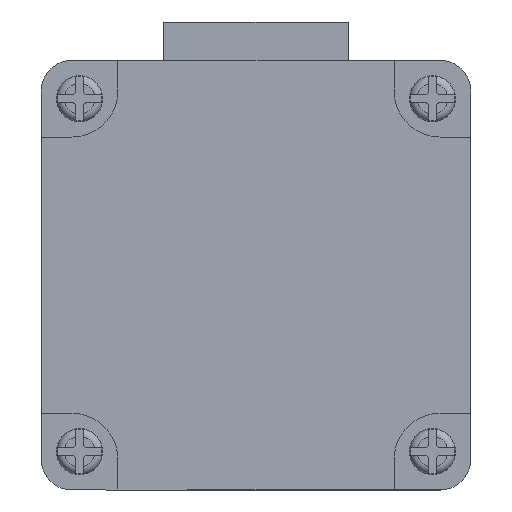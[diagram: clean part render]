
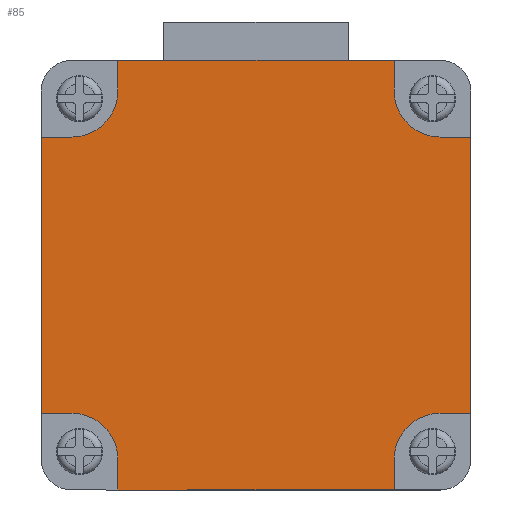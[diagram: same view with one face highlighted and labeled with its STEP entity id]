
A CAD part, front view. The second image highlights one B-rep face of the part: STEP entity #85.
In plain terms, the highlighted planar face has unit normal (0, -1, 0).
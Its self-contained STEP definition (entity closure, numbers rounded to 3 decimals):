
#19 = EDGE_CURVE ( 'NONE', #607, #1506, #1913, .T. ) ;
#23 = DIRECTION ( 'NONE',  ( -1., 0., 0. ) ) ;
#74 = DIRECTION ( 'NONE',  ( 0., 0., -1. ) ) ;
#84 = ORIENTED_EDGE ( 'NONE', *, *, #1749, .F. ) ;
#85 = ADVANCED_FACE ( 'NONE', ( #296 ), #1320, .T. ) ;
#93 = CARTESIAN_POINT ( 'NONE',  ( -12., 0., -12. ) ) ;
#107 = CARTESIAN_POINT ( 'NONE',  ( -9., 0., -14. ) ) ;
#116 = VERTEX_POINT ( 'NONE', #2346 ) ;
#156 = ORIENTED_EDGE ( 'NONE', *, *, #19, .F. ) ;
#158 = EDGE_CURVE ( 'NONE', #1972, #512, #1006, .T. ) ;
#160 = AXIS2_PLACEMENT_3D ( 'NONE', #540, #1135, #1922 ) ;
#195 = CARTESIAN_POINT ( 'NONE',  ( -14., 0., -9. ) ) ;
#196 = VERTEX_POINT ( 'NONE', #2204 ) ;
#239 = CARTESIAN_POINT ( 'NONE',  ( 12., 0., -9. ) ) ;
#240 = VERTEX_POINT ( 'NONE', #625 ) ;
#264 = LINE ( 'NONE', #2277, #1975 ) ;
#296 = FACE_OUTER_BOUND ( 'NONE', #2486, .T. ) ;
#298 = EDGE_CURVE ( 'NONE', #1526, #196, #1031, .T. ) ;
#337 = VECTOR ( 'NONE', #1421, 1000. ) ;
#349 = DIRECTION ( 'NONE',  ( 0., 0., -1. ) ) ;
#361 = EDGE_CURVE ( 'NONE', #1506, #1699, #1067, .T. ) ;
#416 = CARTESIAN_POINT ( 'NONE',  ( -9., 0., 14. ) ) ;
#490 = DIRECTION ( 'NONE',  ( 1., 0., 0. ) ) ;
#495 = DIRECTION ( 'NONE',  ( 0., 0., 1. ) ) ;
#508 = CIRCLE ( 'NONE', #1958, 3. ) ;
#512 = VERTEX_POINT ( 'NONE', #787 ) ;
#521 = CARTESIAN_POINT ( 'NONE',  ( 9., 0., -14. ) ) ;
#540 = CARTESIAN_POINT ( 'NONE',  ( 12., 0., -12. ) ) ;
#556 = CARTESIAN_POINT ( 'NONE',  ( 12., 0., 9. ) ) ;
#583 = ORIENTED_EDGE ( 'NONE', *, *, #2483, .F. ) ;
#590 = CARTESIAN_POINT ( 'NONE',  ( -14., 0., 9. ) ) ;
#607 = VERTEX_POINT ( 'NONE', #1841 ) ;
#625 = CARTESIAN_POINT ( 'NONE',  ( 9., 0., -12. ) ) ;
#636 = EDGE_CURVE ( 'NONE', #1699, #2069, #508, .T. ) ;
#689 = CARTESIAN_POINT ( 'NONE',  ( -12., 0., 12. ) ) ;
#694 = VECTOR ( 'NONE', #23, 1000. ) ;
#707 = ORIENTED_EDGE ( 'NONE', *, *, #1089, .F. ) ;
#748 = EDGE_CURVE ( 'NONE', #116, #1972, #2134, .T. ) ;
#781 = AXIS2_PLACEMENT_3D ( 'NONE', #1885, #2128, #349 ) ;
#787 = CARTESIAN_POINT ( 'NONE',  ( -9., 0., 14. ) ) ;
#873 = CARTESIAN_POINT ( 'NONE',  ( 14., 0., 12. ) ) ;
#925 = LINE ( 'NONE', #1878, #2438 ) ;
#945 = ORIENTED_EDGE ( 'NONE', *, *, #1254, .F. ) ;
#951 = VERTEX_POINT ( 'NONE', #2142 ) ;
#1006 = LINE ( 'NONE', #416, #2425 ) ;
#1007 = CARTESIAN_POINT ( 'NONE',  ( 12., 0., -9. ) ) ;
#1009 = AXIS2_PLACEMENT_3D ( 'NONE', #689, #2283, #495 ) ;
#1018 = DIRECTION ( 'NONE',  ( -1., 0., 0. ) ) ;
#1020 = ORIENTED_EDGE ( 'NONE', *, *, #298, .F. ) ;
#1031 = LINE ( 'NONE', #1635, #1503 ) ;
#1038 = EDGE_CURVE ( 'NONE', #2088, #116, #925, .T. ) ;
#1047 = DIRECTION ( 'NONE',  ( 0., 0., 1. ) ) ;
#1067 = LINE ( 'NONE', #1856, #337 ) ;
#1089 = EDGE_CURVE ( 'NONE', #240, #607, #2075, .T. ) ;
#1121 = ORIENTED_EDGE ( 'NONE', *, *, #2539, .F. ) ;
#1135 = DIRECTION ( 'NONE',  ( 0., -1., 0. ) ) ;
#1200 = VERTEX_POINT ( 'NONE', #239 ) ;
#1215 = LINE ( 'NONE', #1007, #694 ) ;
#1230 = ORIENTED_EDGE ( 'NONE', *, *, #748, .F. ) ;
#1246 = VECTOR ( 'NONE', #1654, 1000. ) ;
#1254 = EDGE_CURVE ( 'NONE', #1632, #951, #2029, .T. ) ;
#1259 = EDGE_CURVE ( 'NONE', #512, #1632, #264, .T. ) ;
#1320 = PLANE ( 'NONE',  #781 ) ;
#1401 = EDGE_CURVE ( 'NONE', #196, #2427, #2472, .T. ) ;
#1421 = DIRECTION ( 'NONE',  ( 0., 0., 1. ) ) ;
#1445 = VECTOR ( 'NONE', #2512, 1000. ) ;
#1503 = VECTOR ( 'NONE', #1839, 1000. ) ;
#1506 = VERTEX_POINT ( 'NONE', #107 ) ;
#1526 = VERTEX_POINT ( 'NONE', #556 ) ;
#1529 = ORIENTED_EDGE ( 'NONE', *, *, #1038, .F. ) ;
#1567 = CARTESIAN_POINT ( 'NONE',  ( -12., 0., -9. ) ) ;
#1573 = AXIS2_PLACEMENT_3D ( 'NONE', #2511, #2037, #1629 ) ;
#1629 = DIRECTION ( 'NONE',  ( 0., 0., 1. ) ) ;
#1632 = VERTEX_POINT ( 'NONE', #1947 ) ;
#1635 = CARTESIAN_POINT ( 'NONE',  ( 14., 0., 9. ) ) ;
#1654 = DIRECTION ( 'NONE',  ( 0., 0., -1. ) ) ;
#1693 = LINE ( 'NONE', #2485, #2373 ) ;
#1699 = VERTEX_POINT ( 'NONE', #2193 ) ;
#1703 = ORIENTED_EDGE ( 'NONE', *, *, #158, .F. ) ;
#1705 = CIRCLE ( 'NONE', #1573, 3. ) ;
#1736 = EDGE_CURVE ( 'NONE', #2069, #2321, #1828, .T. ) ;
#1745 = CIRCLE ( 'NONE', #160, 3. ) ;
#1749 = EDGE_CURVE ( 'NONE', #2427, #1200, #1215, .T. ) ;
#1799 = DIRECTION ( 'NONE',  ( 0., 0., 1. ) ) ;
#1815 = VECTOR ( 'NONE', #1018, 1000. ) ;
#1828 = LINE ( 'NONE', #2031, #1815 ) ;
#1834 = CARTESIAN_POINT ( 'NONE',  ( 14., 0., -9. ) ) ;
#1839 = DIRECTION ( 'NONE',  ( 1., 0., 0. ) ) ;
#1841 = CARTESIAN_POINT ( 'NONE',  ( 9., 0., -14. ) ) ;
#1852 = VECTOR ( 'NONE', #74, 1000. ) ;
#1856 = CARTESIAN_POINT ( 'NONE',  ( -9., 0., -12. ) ) ;
#1860 = ORIENTED_EDGE ( 'NONE', *, *, #1259, .F. ) ;
#1878 = CARTESIAN_POINT ( 'NONE',  ( -12., 0., 9. ) ) ;
#1883 = DIRECTION ( 'NONE',  ( 0., 0., 1. ) ) ;
#1885 = CARTESIAN_POINT ( 'NONE',  ( -12., 0., 12. ) ) ;
#1913 = LINE ( 'NONE', #2116, #1445 ) ;
#1922 = DIRECTION ( 'NONE',  ( 0., 0., 1. ) ) ;
#1947 = CARTESIAN_POINT ( 'NONE',  ( 9., 0., 14. ) ) ;
#1958 = AXIS2_PLACEMENT_3D ( 'NONE', #93, #2269, #1047 ) ;
#1972 = VERTEX_POINT ( 'NONE', #2308 ) ;
#1975 = VECTOR ( 'NONE', #490, 1000. ) ;
#1980 = VECTOR ( 'NONE', #2520, 1000. ) ;
#1984 = ORIENTED_EDGE ( 'NONE', *, *, #2464, .F. ) ;
#2029 = LINE ( 'NONE', #2417, #1852 ) ;
#2031 = CARTESIAN_POINT ( 'NONE',  ( -14., 0., -9. ) ) ;
#2037 = DIRECTION ( 'NONE',  ( 0., -1., 0. ) ) ;
#2069 = VERTEX_POINT ( 'NONE', #1567 ) ;
#2075 = LINE ( 'NONE', #521, #1980 ) ;
#2088 = VERTEX_POINT ( 'NONE', #590 ) ;
#2116 = CARTESIAN_POINT ( 'NONE',  ( 12., 0., -14. ) ) ;
#2128 = DIRECTION ( 'NONE',  ( 0., -1., 0. ) ) ;
#2134 = CIRCLE ( 'NONE', #1009, 3. ) ;
#2142 = CARTESIAN_POINT ( 'NONE',  ( 9., 0., 12. ) ) ;
#2193 = CARTESIAN_POINT ( 'NONE',  ( -9., 0., -12. ) ) ;
#2204 = CARTESIAN_POINT ( 'NONE',  ( 14., 0., 9. ) ) ;
#2215 = ORIENTED_EDGE ( 'NONE', *, *, #361, .F. ) ;
#2269 = DIRECTION ( 'NONE',  ( 0., -1., 0. ) ) ;
#2277 = CARTESIAN_POINT ( 'NONE',  ( 12., 0., 14. ) ) ;
#2283 = DIRECTION ( 'NONE',  ( 0., -1., 0. ) ) ;
#2305 = ORIENTED_EDGE ( 'NONE', *, *, #636, .F. ) ;
#2308 = CARTESIAN_POINT ( 'NONE',  ( -9., 0., 12. ) ) ;
#2315 = ORIENTED_EDGE ( 'NONE', *, *, #1401, .F. ) ;
#2321 = VERTEX_POINT ( 'NONE', #195 ) ;
#2346 = CARTESIAN_POINT ( 'NONE',  ( -12., 0., 9. ) ) ;
#2373 = VECTOR ( 'NONE', #1883, 1000. ) ;
#2388 = ORIENTED_EDGE ( 'NONE', *, *, #1736, .F. ) ;
#2417 = CARTESIAN_POINT ( 'NONE',  ( 9., 0., 12. ) ) ;
#2425 = VECTOR ( 'NONE', #1799, 1000. ) ;
#2427 = VERTEX_POINT ( 'NONE', #1834 ) ;
#2438 = VECTOR ( 'NONE', #2493, 1000. ) ;
#2464 = EDGE_CURVE ( 'NONE', #2321, #2088, #1693, .T. ) ;
#2472 = LINE ( 'NONE', #873, #1246 ) ;
#2483 = EDGE_CURVE ( 'NONE', #951, #1526, #1705, .T. ) ;
#2485 = CARTESIAN_POINT ( 'NONE',  ( -14., 0., 12. ) ) ;
#2486 = EDGE_LOOP ( 'NONE', ( #707, #1121, #84, #2315, #1020, #583, #945, #1860, #1703, #1230, #1529, #1984, #2388, #2305, #2215, #156 ) ) ;
#2493 = DIRECTION ( 'NONE',  ( 1., 0., 0. ) ) ;
#2511 = CARTESIAN_POINT ( 'NONE',  ( 12., 0., 12. ) ) ;
#2512 = DIRECTION ( 'NONE',  ( -1., 0., 0. ) ) ;
#2520 = DIRECTION ( 'NONE',  ( 0., 0., -1. ) ) ;
#2539 = EDGE_CURVE ( 'NONE', #1200, #240, #1745, .T. ) ;
